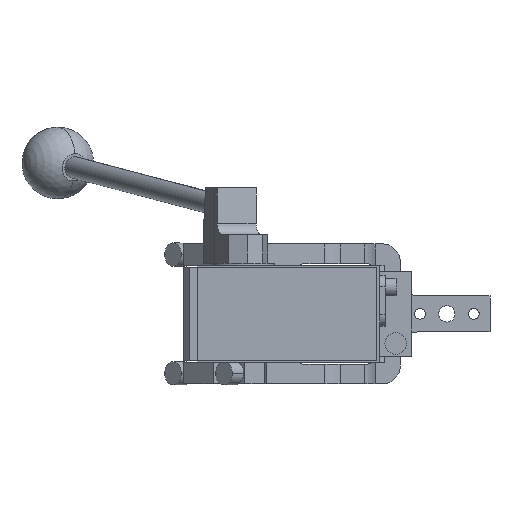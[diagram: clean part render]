
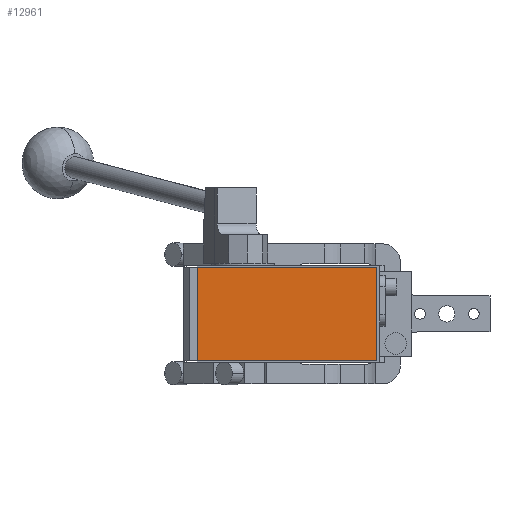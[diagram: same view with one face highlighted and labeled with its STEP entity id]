
A CAD part, front view. The second image highlights one B-rep face of the part: STEP entity #12961.
In plain terms, the highlighted planar face has unit normal (0, -1, 0).
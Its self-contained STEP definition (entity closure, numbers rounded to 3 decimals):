
#29 = VERTEX_POINT ( 'NONE', #7248 ) ;
#613 = CARTESIAN_POINT ( 'NONE',  ( 81., -286.5, 26. ) ) ;
#930 = LINE ( 'NONE', #6984, #13221 ) ;
#1596 = VERTEX_POINT ( 'NONE', #7389 ) ;
#1806 = VERTEX_POINT ( 'NONE', #14860 ) ;
#1906 = EDGE_CURVE ( 'NONE', #1596, #29, #930, .T. ) ;
#2500 = DIRECTION ( 'NONE',  ( 0., -1., 0. ) ) ;
#2690 = EDGE_LOOP ( 'NONE', ( #14136, #12889, #9147, #13865 ) ) ;
#4291 = CARTESIAN_POINT ( 'NONE',  ( -19., -286.5, 26. ) ) ;
#4388 = VECTOR ( 'NONE', #13697, 1000. ) ;
#4605 = CARTESIAN_POINT ( 'NONE',  ( -19., -286.5, 26. ) ) ;
#4908 = CARTESIAN_POINT ( 'NONE',  ( 81., -286.5, 26. ) ) ;
#5222 = DIRECTION ( 'NONE',  ( 0., 0., 1. ) ) ;
#5428 = LINE ( 'NONE', #4291, #12785 ) ;
#6517 = LINE ( 'NONE', #613, #13655 ) ;
#6945 = EDGE_CURVE ( 'NONE', #29, #11954, #6517, .T. ) ;
#6984 = CARTESIAN_POINT ( 'NONE',  ( -19., -286.5, -26. ) ) ;
#7041 = EDGE_CURVE ( 'NONE', #1806, #1596, #15065, .T. ) ;
#7119 = CARTESIAN_POINT ( 'NONE',  ( 0., -286.5, 0. ) ) ;
#7248 = CARTESIAN_POINT ( 'NONE',  ( 81., -286.5, -26. ) ) ;
#7389 = CARTESIAN_POINT ( 'NONE',  ( -19., -286.5, -26. ) ) ;
#8027 = PLANE ( 'NONE',  #8895 ) ;
#8895 = AXIS2_PLACEMENT_3D ( 'NONE', #7119, #2500, #12912 ) ;
#9147 = ORIENTED_EDGE ( 'NONE', *, *, #6945, .T. ) ;
#11954 = VERTEX_POINT ( 'NONE', #4908 ) ;
#12156 = EDGE_CURVE ( 'NONE', #11954, #1806, #5428, .T. ) ;
#12724 = DIRECTION ( 'NONE',  ( 1., 0., 0. ) ) ;
#12785 = VECTOR ( 'NONE', #14893, 1000. ) ;
#12889 = ORIENTED_EDGE ( 'NONE', *, *, #1906, .T. ) ;
#12912 = DIRECTION ( 'NONE',  ( 0., 0., -1. ) ) ;
#12961 = ADVANCED_FACE ( 'NONE', ( #14138 ), #8027, .T. ) ;
#13221 = VECTOR ( 'NONE', #12724, 1000. ) ;
#13655 = VECTOR ( 'NONE', #5222, 1000. ) ;
#13697 = DIRECTION ( 'NONE',  ( 0., 0., -1. ) ) ;
#13865 = ORIENTED_EDGE ( 'NONE', *, *, #12156, .T. ) ;
#14136 = ORIENTED_EDGE ( 'NONE', *, *, #7041, .T. ) ;
#14138 = FACE_OUTER_BOUND ( 'NONE', #2690, .T. ) ;
#14860 = CARTESIAN_POINT ( 'NONE',  ( -19., -286.5, 26. ) ) ;
#14893 = DIRECTION ( 'NONE',  ( -1., 0., 0. ) ) ;
#15065 = LINE ( 'NONE', #4605, #4388 ) ;
